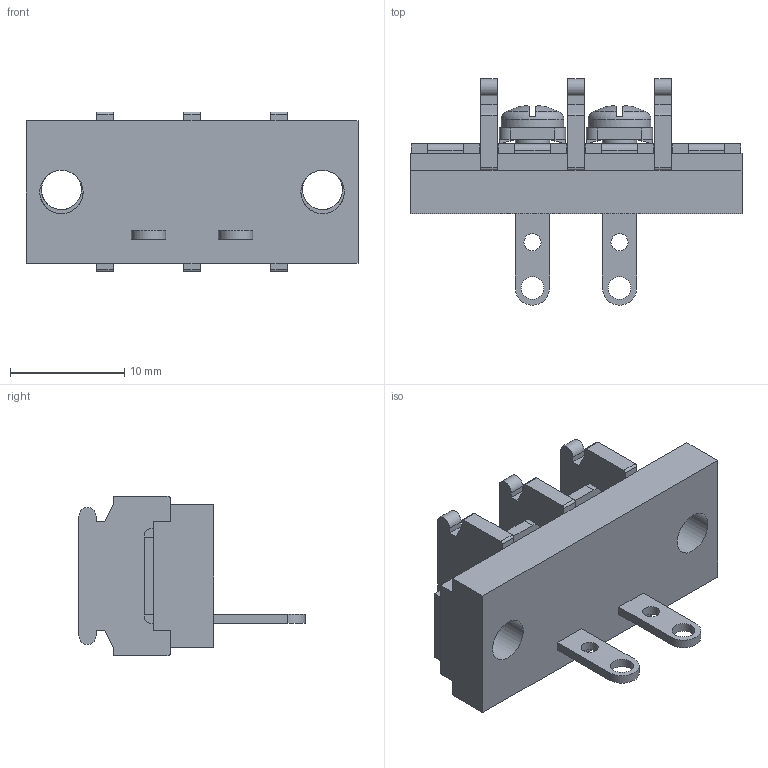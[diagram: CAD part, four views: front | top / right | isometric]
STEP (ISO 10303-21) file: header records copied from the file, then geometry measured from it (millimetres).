
FILE_DESCRIPTION(/* description */ ('Alibre Inc.'),/* implementation_level */ '2;1');
FILE_NAME(/* name */ 'export0',/* time_stamp */ '2015-10-23T19:58:34+09:00',/* author */ (''),/* organization */ (''),/* preprocessor_version */ 'ST-DEVELOPER v14',/* originating_system */ 'Alibre',/* authorisation */ '');
FILE_SCHEMA (('CONFIG_CONTROL_DESIGN'));
Length unit declared in the file: centimetre
Products named in the file (1): ID_1
Bounding box: 29.06 x 19.8 x 14 mm (x, y, z)
Volume: 2369.5 mm3; surface area: 2404.7 mm2
Topology: 1 solids, 17 shells, 684 faces, 1826 edges, 1206 vertices
Faces by surface type: plane 514, bspline 104, cylinder 50, cone 8, torus 4, sphere 4
Full cylindrical faces by diameter (mm): 1.5 x2, 2 x2, 3 x2, 3.5 x2, 3.8 x2, 5.5 x2
Entity records: 20399 total; most frequent: CARTESIAN_POINT 4735, ORIENTED_EDGE 3596, DIRECTION 2300, EDGE_CURVE 1798, VECTOR 1364, LINE 1364, VERTEX_POINT 1194, EDGE_LOOP 750
